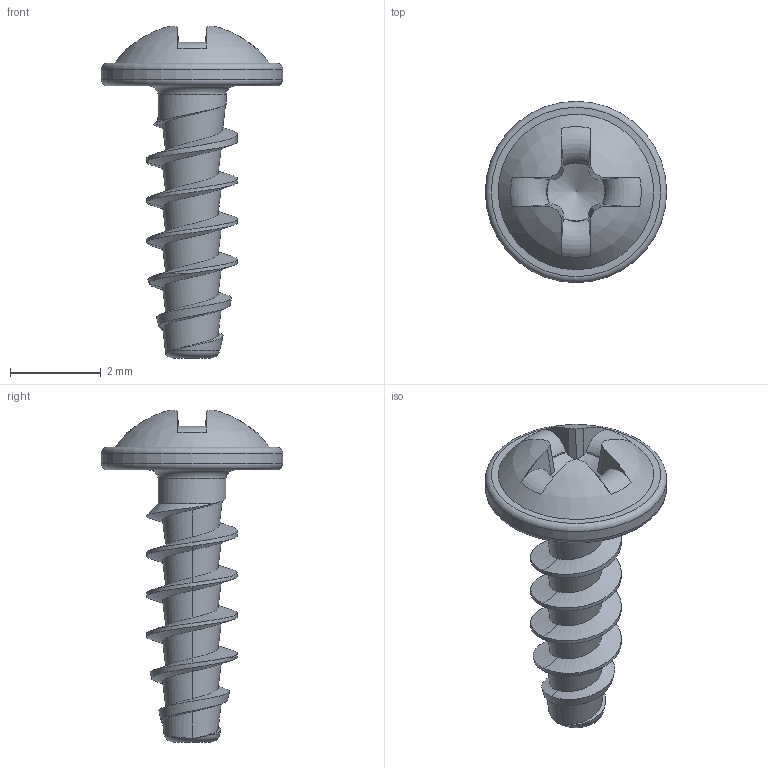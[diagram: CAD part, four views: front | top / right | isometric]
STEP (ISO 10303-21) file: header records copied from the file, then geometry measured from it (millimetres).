
FILE_DESCRIPTION(/* description */ (''),/* implementation_level */ '2;1');
FILE_NAME(/* name */ 'KN1031-STS-20x6-H1.step',/* time_stamp */ '2017-10-12T13:26:33+02:00',/* author */ (''),/* organization */ (''),/* preprocessor_version */ 'ST-DEVELOPER v16',/* originating_system */ 'SIEMENS PLM Software NX 10.0',/* authorisation */ '');
FILE_SCHEMA (('AUTOMOTIVE_DESIGN { 1 0 10303 214 3 1 1 1 }'));
Length unit declared in the file: millimetre
Products named in the file (1): KN1031-STS-20x6-H1
Bounding box: 4 x 4 x 7.32 mm (x, y, z)
Volume: 18.7 mm3; surface area: 73.9 mm2
Topology: 1 solids, 1 shells, 59 faces, 155 edges, 99 vertices
Faces by surface type: plane 20, bspline 20, torus 8, cone 7, cylinder 3, sphere 1
Full cylindrical faces by diameter (mm): 1.5 x1, 4 x1
Entity records: 3046 total; most frequent: CARTESIAN_POINT 1803, ORIENTED_EDGE 282, DIRECTION 191, EDGE_CURVE 141, VERTEX_POINT 94, AXIS2_PLACEMENT_3D 81, B_SPLINE_CURVE_WITH_KNOTS 71, EDGE_LOOP 68
